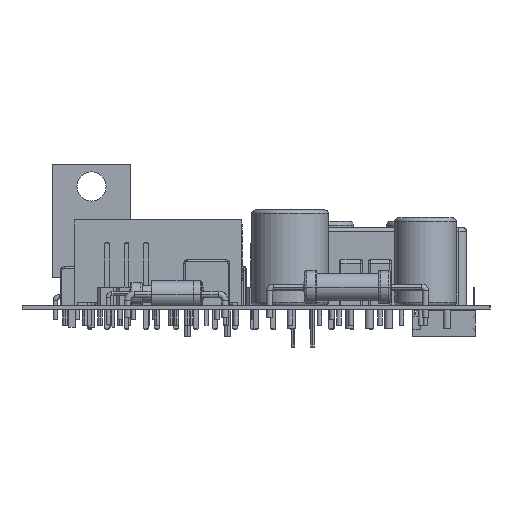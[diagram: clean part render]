
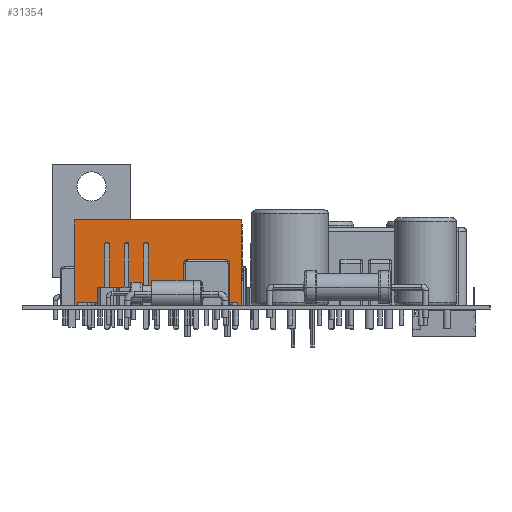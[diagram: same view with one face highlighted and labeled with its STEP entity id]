
A CAD part, left-side view. The second image highlights one B-rep face of the part: STEP entity #31354.
In plain terms, the highlighted planar face has unit normal (-1, 0, 0) as drawn and (0, 0, -1) by its records, which use the part's own axes.
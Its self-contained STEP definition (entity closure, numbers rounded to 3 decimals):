
#31003 = VERTEX_POINT('',#31004);
#31004 = CARTESIAN_POINT('',(-10.4,0.5,-4.65));
#31010 = EDGE_CURVE('',#31003,#31011,#31013,.T.);
#31011 = VERTEX_POINT('',#31012);
#31012 = CARTESIAN_POINT('',(10.4,0.5,-4.65));
#31013 = LINE('',#31014,#31015);
#31014 = CARTESIAN_POINT('',(-10.4,0.5,-4.65));
#31015 = VECTOR('',#31016,1.);
#31016 = DIRECTION('',(1.,0.,0.));
#31281 = VERTEX_POINT('',#31282);
#31282 = CARTESIAN_POINT('',(-10.4,0.,-4.65));
#31297 = VERTEX_POINT('',#31298);
#31298 = CARTESIAN_POINT('',(-10.9,0.,-4.65));
#31304 = EDGE_CURVE('',#31281,#31297,#31305,.T.);
#31305 = LINE('',#31306,#31307);
#31306 = CARTESIAN_POINT('',(-10.9,0.,-4.65));
#31307 = VECTOR('',#31308,1.);
#31308 = DIRECTION('',(-1.,0.,0.));
#31321 = VERTEX_POINT('',#31322);
#31322 = CARTESIAN_POINT('',(10.9,0.,-4.65));
#31328 = EDGE_CURVE('',#31329,#31321,#31331,.T.);
#31329 = VERTEX_POINT('',#31330);
#31330 = CARTESIAN_POINT('',(10.9,11.2,-4.65));
#31331 = LINE('',#31332,#31333);
#31332 = CARTESIAN_POINT('',(10.9,11.2,-4.65));
#31333 = VECTOR('',#31334,1.);
#31334 = DIRECTION('',(0.,-1.,0.));
#31354 = ADVANCED_FACE('',(#31355),#31394,.F.);
#31355 = FACE_BOUND('',#31356,.T.);
#31356 = EDGE_LOOP('',(#31357,#31358,#31364,#31365,#31373,#31379,#31380,
    #31388));
#31357 = ORIENTED_EDGE('',*,*,#31010,.F.);
#31358 = ORIENTED_EDGE('',*,*,#31359,.T.);
#31359 = EDGE_CURVE('',#31003,#31281,#31360,.T.);
#31360 = LINE('',#31361,#31362);
#31361 = CARTESIAN_POINT('',(-10.4,0.5,-4.65));
#31362 = VECTOR('',#31363,1.);
#31363 = DIRECTION('',(0.,-1.,0.));
#31364 = ORIENTED_EDGE('',*,*,#31304,.T.);
#31365 = ORIENTED_EDGE('',*,*,#31366,.F.);
#31366 = EDGE_CURVE('',#31367,#31297,#31369,.T.);
#31367 = VERTEX_POINT('',#31368);
#31368 = CARTESIAN_POINT('',(-10.9,11.2,-4.65));
#31369 = LINE('',#31370,#31371);
#31370 = CARTESIAN_POINT('',(-10.9,11.2,-4.65));
#31371 = VECTOR('',#31372,1.);
#31372 = DIRECTION('',(0.,-1.,0.));
#31373 = ORIENTED_EDGE('',*,*,#31374,.F.);
#31374 = EDGE_CURVE('',#31329,#31367,#31375,.T.);
#31375 = LINE('',#31376,#31377);
#31376 = CARTESIAN_POINT('',(-10.9,11.2,-4.65));
#31377 = VECTOR('',#31378,1.);
#31378 = DIRECTION('',(-1.,0.,0.));
#31379 = ORIENTED_EDGE('',*,*,#31328,.T.);
#31380 = ORIENTED_EDGE('',*,*,#31381,.T.);
#31381 = EDGE_CURVE('',#31321,#31382,#31384,.T.);
#31382 = VERTEX_POINT('',#31383);
#31383 = CARTESIAN_POINT('',(10.4,0.,-4.65));
#31384 = LINE('',#31385,#31386);
#31385 = CARTESIAN_POINT('',(-10.9,0.,-4.65));
#31386 = VECTOR('',#31387,1.);
#31387 = DIRECTION('',(-1.,0.,0.));
#31388 = ORIENTED_EDGE('',*,*,#31389,.F.);
#31389 = EDGE_CURVE('',#31011,#31382,#31390,.T.);
#31390 = LINE('',#31391,#31392);
#31391 = CARTESIAN_POINT('',(10.4,0.5,-4.65));
#31392 = VECTOR('',#31393,1.);
#31393 = DIRECTION('',(0.,-1.,0.));
#31394 = PLANE('',#31395);
#31395 = AXIS2_PLACEMENT_3D('',#31396,#31397,#31398);
#31396 = CARTESIAN_POINT('',(-10.9,11.2,-4.65));
#31397 = DIRECTION('',(0.,0.,1.));
#31398 = DIRECTION('',(1.,0.,0.));
